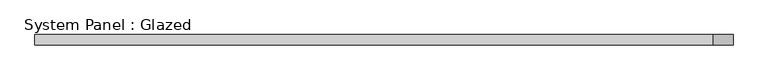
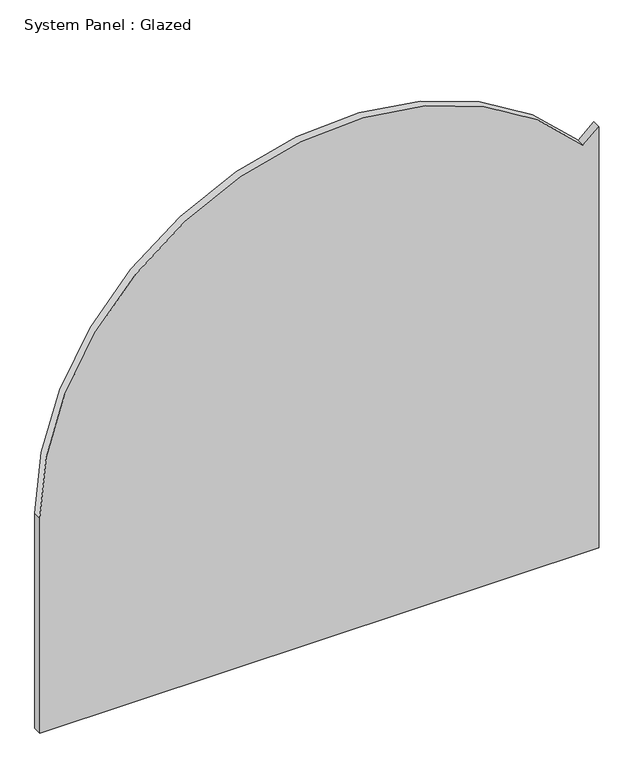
"""IFC4 building model written with IfcOpenShell, lengths in millimetres: plate geometry, System Panel : Glazed."""

from ifc_helpers import new_model, si_unit, point, frame, frame_2d, origin, place, context, project, spatial, polyline, circle_curve, trimmed, segment, composite_curve, outline, extrude, source, transform, mapped, element, save


def system_panel_glazed_8ac893f6(model_context):
    return source(origin(), model_context, "Body", "SweptSolid", [
        extrude(outline(composite_curve([segment(polyline([(0.0, -844.9166668), (0.0, 844.9166668), (1344.138874, 844.9166668), (1302.3788055, 797.0800001)]), True, "CONTINUOUS"), segment(trimmed(circle_curve(frame_2d((686.5, 91.5833332)), 936.5), [point((1302.3788055, 797.0800001))], [point((686.5, -844.9166668))], False, "CARTESIAN"), True, "CONTINUOUS"), segment(polyline([(686.5, -844.9166668), (0.0, -844.9166668)]), True, "CONTINUOUS")], self_intersect=False)), frame((0.0, 19.05, 0.0), z_axis=(0.0, 1.0, 0.0), x_axis=(0.0, 0.0, 1.0)), (0.0, 0.0, 1.0), 25.4),
    ])


if __name__ == "__main__":
    model = new_model("IFC4")
    model_context = context("Model", 3, world=origin())
    ifc_project = project(units=[si_unit("LENGTHUNIT", "METRE", prefix="MILLI")], contexts=[model_context])
    site = spatial("IfcSite", under=ifc_project)
    building = spatial("IfcBuilding", under=site)
    placement = place(None, origin())
    system_panel_glazed_shape = system_panel_glazed_8ac893f6(model_context)
    element("IfcPlate", 1, ObjectType="System Panel : Glazed", at=placement, inside=building, context=model_context, shape_type="MappedRepresentation", body=[
        mapped(system_panel_glazed_shape, transform((0.0, 0.0, 0.0), x_axis=(1.0, 0.0, 0.0), y_axis=(0.0, 1.0, 0.0), z_axis=(0.0, 0.0, 1.0))),
    ])
    save(model, "model.ifc")
